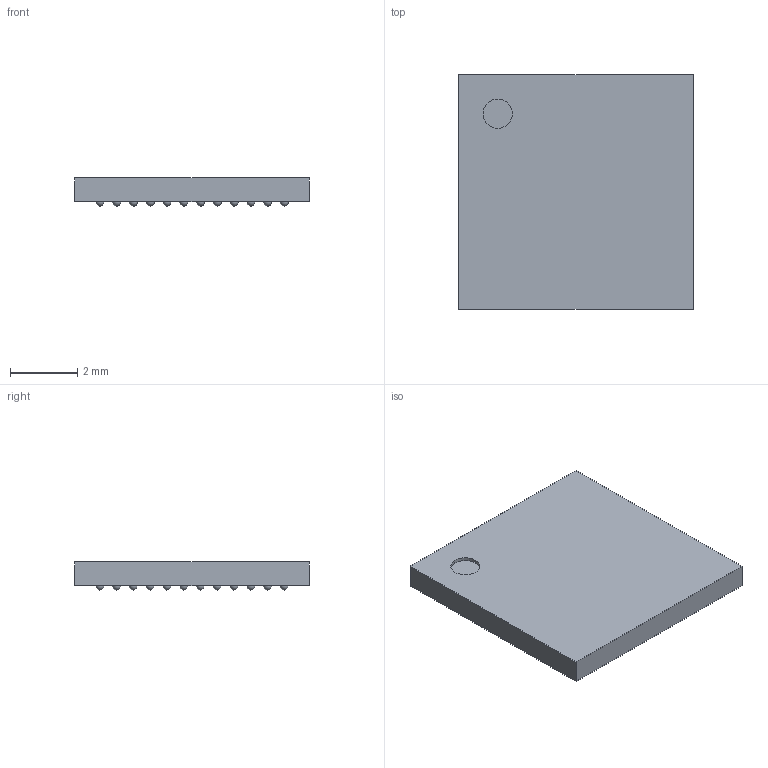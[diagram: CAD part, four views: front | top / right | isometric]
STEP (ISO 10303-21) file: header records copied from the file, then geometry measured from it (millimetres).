
FILE_DESCRIPTION(('Open CASCADE Model'),'2;1');
FILE_NAME('Open CASCADE Shape Model','2022-11-04T16:08:57',('Author'),( 'Open CASCADE'),'Open CASCADE STEP processor 6.8','Open CASCADE 6.8' ,'Unknown');
FILE_SCHEMA(('AUTOMOTIVE_DESIGN { 1 0 10303 214 1 1 1 1 }'));
Length unit declared in the file: millimetre
Products named in the file (5): BGA100C50P12X12_700X700X84.step; Open CASCADE STEP translator 6.8 18.1; Body; Open CASCADE STEP translator 6.8 18.2.1; ball
Assembly tree (103 placements, depth 3):
  BGA100C50P12X12_700X700X84.step
    Open CASCADE STEP translator 6.8 18.1
    Body
      Open CASCADE STEP translator 6.8 18.2.1
    ball  x100
Bounding box: 7 x 7 x 0.84 mm (x, y, z)
Volume: 35.5 mm3; surface area: 138.4 mm2
Topology: 101 solids, 102 shells, 109 faces, 316 edges, 211 vertices
Faces by surface type: sphere 100, plane 8, cylinder 1
Full cylindrical faces by diameter (mm): 0.875 x1
Entity records: 1139 total; most frequent: DIRECTION 247, CARTESIAN_POINT 142, AXIS2_PLACEMENT_3D 117, PRODUCT_DEFINITION_SHAPE 108, CONTEXT_DEPENDENT_SHAPE_REPRESENTATION 103, ITEM_DEFINED_TRANSFORMATION 103, NEXT_ASSEMBLY_USAGE_OCCURRENCE 103, ORIENTED_EDGE 31
